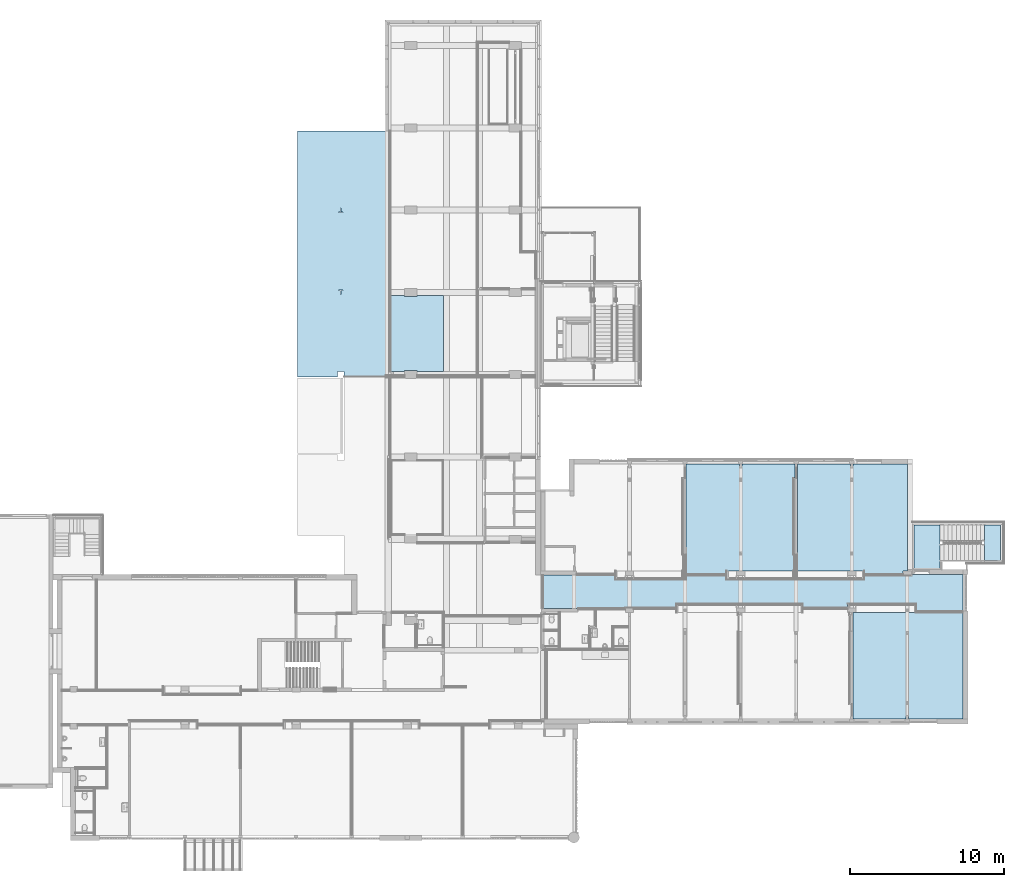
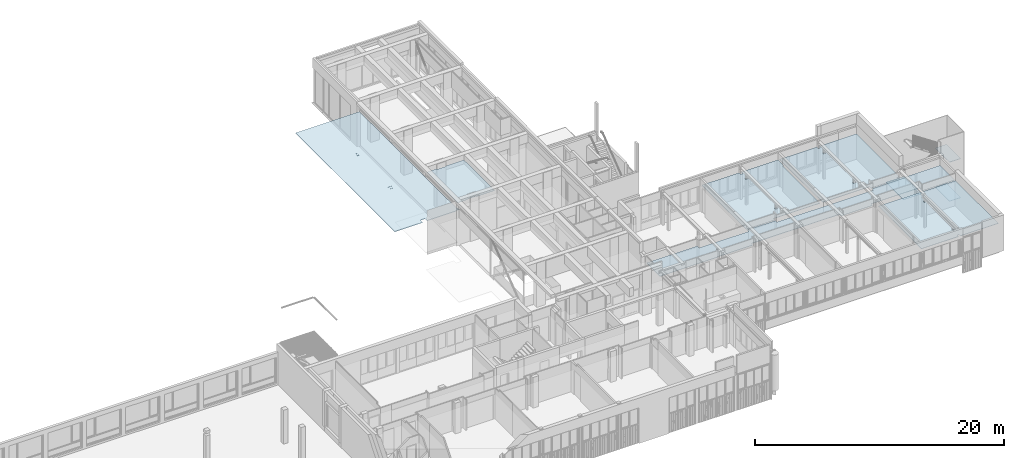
# One storey, part 34 of 117: 9 slabs.
"""IFC2X3 building model written with IfcOpenShell, lengths in millimetres."""

from ifc_helpers import new_model, entity, si_unit, converted_unit, derived_unit, money_unit, direction, frame, origin_with_axes, place, context, subcontext, project, spatial, faceted_brep, material, type_object, element, save


model = new_model("IFC2X3")

# Units and contexts
model_context = context("Model", 3, precision=0.01, world=origin_with_axes(), true_north=direction((0.0, 1.0)))
body_context = subcontext(model_context, "Body", "Model", "MODEL_VIEW")
ifc_project = project(units=[si_unit("LENGTHUNIT", "METRE", prefix="MILLI"), si_unit("AREAUNIT", "SQUARE_METRE"), si_unit("VOLUMEUNIT", "CUBIC_METRE"), converted_unit("PLANEANGLEUNIT", "DEGREE", entity("IfcPlaneAngleMeasure", 0.0174532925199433), si_unit("PLANEANGLEUNIT", "RADIAN"), dimensions=[0, 0, 0, 0, 0, 0, 0]), money_unit("EUR"), converted_unit("TIMEUNIT", "Year", entity("IfcTimeMeasure", 31557600.0), si_unit("TIMEUNIT", "SECOND"), dimensions=[0, 0, 1, 0, 0, 0, 0]), si_unit("MASSUNIT", "GRAM", prefix="KILO"), si_unit("THERMODYNAMICTEMPERATUREUNIT", "DEGREE_CELSIUS"), si_unit("LUMINOUSINTENSITYUNIT", "LUMEN"), si_unit("ENERGYUNIT", "JOULE", prefix="MEGA"), derived_unit("THERMALCONDUCTANCEUNIT", [(si_unit("POWERUNIT", "WATT"), 1), (si_unit("LENGTHUNIT", "METRE"), -1), (si_unit("THERMODYNAMICTEMPERATUREUNIT", "KELVIN"), -1)]), derived_unit("SPECIFICHEATCAPACITYUNIT", [(si_unit("ENERGYUNIT", "JOULE"), 1), (si_unit("MASSUNIT", "GRAM", prefix="KILO"), -1), (si_unit("THERMODYNAMICTEMPERATUREUNIT", "KELVIN"), -1)]), derived_unit("MASSDENSITYUNIT", [(si_unit("MASSUNIT", "GRAM", prefix="KILO"), 1), (si_unit("VOLUMEUNIT", "CUBIC_METRE"), -1)])], contexts=[model_context])

# Site, building, storey
site_placement = place(None, origin_with_axes())
site = spatial("IfcSite", under=ifc_project, at=site_placement, Name="Site", CompositionType="ELEMENT")
building_placement = place(site_placement, origin_with_axes())
building = spatial("IfcBuilding", under=site, at=building_placement, Name="Naam gebouw", CompositionType="ELEMENT")
storey_placement = place(building_placement, frame((0.0, 0.0, 4150.0), z_axis=(0.0, 0.0, 1.0), x_axis=(1.0, 0.0, 0.0)))
storey = spatial("IfcBuildingStorey", under=building, at=storey_placement, Name="1e verdieping N", CompositionType="ELEMENT", Elevation=4150.0)

# Slabs
ifc_material_1 = material(Name="ALG - BINNENAFWERKING")
slab_type_1 = type_object("IfcSlabType", Name="ALG - BINNENAFWERKING 40", PredefinedType="NOTDEFINED")
slab_1_placement = place(storey_placement, frame((50474.99998658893, 10990.91242510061, 2450.0), z_axis=(0.0, 0.0, 1.0), x_axis=(1.0, 0.0, 0.0)))
element("IfcSlab", 1, at=slab_1_placement, inside=storey, type_object=slab_type_1, material=ifc_material_1, Name="_Vloer-x", PredefinedType="NOTDEFINED", context=body_context, shape_type="Brep", body=[
    faceted_brep([(3465.000013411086, 965.0000000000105, 40.00000000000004), (3585.000013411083, 964.9999999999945, 40.00000000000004), (3585.000013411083, 1084.999999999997, 40.00000000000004), (3465.000013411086, 1084.999999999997, 40.00000000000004), (3465.000013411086, 965.0000000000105, 0.0), (3585.000013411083, 964.9999999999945, 0.0), (3585.000013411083, 1084.999999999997, 0.0), (3465.000013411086, 1084.999999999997, 0.0)], [[[0, 1, 2, 3]], [[4, 5, 1, 0]], [[5, 6, 2, 1]], [[3, 2, 6, 7]], [[7, 4, 0, 3]], [[7, 6, 5, 4]]]),
    faceted_brep([(3465.000013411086, 5510.00000000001, 40.00000000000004), (3585.000013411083, 5509.999999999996, 40.00000000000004), (3585.000013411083, 5630.000000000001, 40.00000000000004), (3465.000013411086, 5630.000000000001, 40.00000000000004), (3465.000013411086, 5510.00000000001, 0.0), (3585.000013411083, 5509.999999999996, 0.0), (3585.000013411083, 5630.000000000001, 0.0), (3465.000013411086, 5630.000000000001, 0.0)], [[[0, 1, 2, 3]], [[4, 5, 1, 0]], [[5, 6, 2, 1]], [[3, 2, 6, 7]], [[7, 4, 0, 3]], [[7, 6, 5, 4]]]),
    faceted_brep([(3610.000013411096, 5654.999999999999, 0.0), (3610.000013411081, 5630.000000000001, 0.0), (3610.000013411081, 5630.000000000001, 40.00000000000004), (3610.000013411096, 5654.999999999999, 40.00000000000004), (3450.000013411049, 210.0000000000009, 0.0), (3450.000013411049, 0.0, 0.0), (0.0, 0.0, 0.0), (0.0, 6880.000048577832, 0.0), (7125.000013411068, 6880.000048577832, 0.0), (7125.000013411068, 0.0, 0.0), (3600.000013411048, 0.0, 0.0), (3600.000013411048, 210.0000000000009, 0.0), (3610.000013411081, 940.0000000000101, 0.0), (3610.000013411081, 964.9999999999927, 0.0), (3610.000013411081, 1084.999999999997, 0.0), (3610.000013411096, 1109.999999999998, 0.0), (3465.000013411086, 1109.999999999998, 0.0), (3440.000013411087, 1109.999999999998, 0.0), (3440.000013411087, 940.0000000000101, 0.0), (3465.000013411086, 940.0000000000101, 0.0), (3610.000013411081, 5485.000000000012, 0.0), (3610.000013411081, 5509.999999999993, 0.0), (3465.000013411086, 5654.999999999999, 0.0), (3440.000013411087, 5654.999999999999, 0.0), (3440.000013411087, 5485.000000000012, 0.0), (3465.000013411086, 5485.000000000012, 0.0), (3610.000013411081, 5509.999999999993, 40.00000000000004), (7125.000013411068, 6880.000048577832, 40.00000000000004), (0.0, 6880.000048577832, 40.00000000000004), (0.0, 0.0, 40.00000000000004), (3450.000013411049, 0.0, 40.00000000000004), (3450.000013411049, 210.0000000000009, 40.00000000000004), (3600.000013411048, 210.0000000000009, 40.00000000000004), (3600.000013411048, 0.0, 40.00000000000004), (7125.000013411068, 0.0, 40.00000000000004), (3610.000013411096, 1109.999999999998, 40.00000000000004), (3610.000013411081, 1084.999999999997, 40.00000000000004), (3610.000013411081, 964.9999999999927, 40.00000000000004), (3610.000013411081, 940.0000000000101, 40.00000000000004), (3465.000013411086, 940.0000000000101, 40.00000000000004), (3440.000013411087, 940.0000000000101, 40.00000000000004), (3440.000013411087, 1109.999999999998, 40.00000000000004), (3465.000013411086, 1109.999999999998, 40.00000000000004), (3610.000013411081, 5485.000000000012, 40.00000000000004), (3465.000013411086, 5485.000000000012, 40.00000000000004), (3440.000013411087, 5485.000000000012, 40.00000000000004), (3440.000013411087, 5654.999999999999, 40.00000000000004), (3465.000013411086, 5654.999999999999, 40.00000000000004)], [[[0, 1, 2, 3]], [[4, 5, 6, 7, 8, 9, 10, 11], [12, 13, 14, 15, 16, 17, 18, 19], [20, 21, 1, 0, 22, 23, 24, 25]], [[21, 26, 2, 1]], [[27, 28, 29, 30, 31, 32, 33, 34], [35, 36, 37, 38, 39, 40, 41, 42], [3, 2, 26, 43, 44, 45, 46, 47]], [[0, 3, 47, 22]], [[31, 30, 5, 4]], [[30, 29, 6, 5]], [[29, 28, 7, 6]], [[28, 27, 8, 7]], [[27, 34, 9, 8]], [[34, 33, 10, 9]], [[33, 32, 11, 10]], [[32, 31, 4, 11]], [[38, 37, 13, 12]], [[13, 37, 36, 14]], [[15, 14, 36, 35]], [[15, 35, 42, 16]], [[17, 16, 42, 41]], [[17, 41, 40, 18]], [[40, 39, 19, 18]], [[19, 39, 38, 12]], [[43, 26, 21, 20]], [[23, 22, 47, 46]], [[23, 46, 45, 24]], [[45, 44, 25, 24]], [[25, 44, 43, 20]]]),
])
slab_2_placement = place(storey_placement, frame((14507.00000003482, 33135.91242625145, 3300.000000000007), z_axis=(0.0, 0.0, 1.0), x_axis=(1.0, 0.0, 0.0)))
element("IfcSlab", 2, at=slab_2_placement, inside=storey, type_object=slab_type_1, material=ifc_material_1, Name="_Vloer-x", PredefinedType="NOTDEFINED", context=body_context, shape_type="Brep", body=[
    faceted_brep([(0.0, 15925.00000007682, 0.0), (5928.999999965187, 15925.00000007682, 0.0), (5928.999999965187, 350.0000756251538, 0.0), (6028.999999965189, 350.0000756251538, 0.0), (6029.000047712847, 99.99991990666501, 0.0), (5698.999956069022, 99.99991990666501, 0.0), (5698.999956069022, 30.00009462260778, 0.0), (2998.999982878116, 30.00009462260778, 0.0), (2998.999982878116, 364.9998856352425, 0.0), (2568.99997132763, 364.9998856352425, 0.0), (2568.99997132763, 0.0, 0.0), (0.0, 0.0, 0.0), (2802.999999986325, 5607.38268597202, 0.0), (2816.499999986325, 5611.000000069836, 0.0), (2933.999999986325, 5611.000000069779, 0.0), (2933.999999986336, 5630.000000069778, 0.0), (2633.999999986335, 5630.00000006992, 0.0), (2633.999999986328, 5611.000000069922, 0.0), (2751.499999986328, 5611.000000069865, 0.0), (2764.999999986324, 5607.382685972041, 0.0), (2774.882685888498, 5597.500000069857, 0.0), (2778.499999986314, 5584.000000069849, 0.0), (2778.499999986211, 5376.000000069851, 0.0), (2774.882685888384, 5362.500000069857, 0.0), (2764.9999999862, 5352.617314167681, 0.0), (2751.499999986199, 5349.000000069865, 0.0), (2633.9999999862, 5349.000000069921, 0.0), (2633.999999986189, 5330.000000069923, 0.0), (2933.99999998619, 5330.000000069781, 0.0), (2933.999999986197, 5349.000000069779, 0.0), (2816.499999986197, 5349.000000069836, 0.0), (2802.9999999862, 5352.617314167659, 0.0), (2793.117314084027, 5362.500000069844, 0.0), (2789.49999998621, 5376.000000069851, 0.0), (2789.499999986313, 5584.000000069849, 0.0), (2793.117314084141, 5597.500000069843, 0.0), (2802.999999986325, 10937.38268598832, 0.0), (2816.499999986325, 10941.00000008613, 0.0), (2933.999999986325, 10941.00000008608, 0.0), (2933.999999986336, 10960.00000008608, 0.0), (2633.999999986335, 10960.00000008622, 0.0), (2633.999999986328, 10941.00000008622, 0.0), (2751.499999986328, 10941.00000008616, 0.0), (2764.999999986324, 10937.38268598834, 0.0), (2774.882685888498, 10927.50000008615, 0.0), (2778.499999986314, 10914.00000008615, 0.0), (2778.499999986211, 10706.00000008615, 0.0), (2774.882685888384, 10692.50000008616, 0.0), (2764.9999999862, 10682.61731418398, 0.0), (2751.499999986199, 10679.00000008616, 0.0), (2633.9999999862, 10679.00000008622, 0.0), (2633.999999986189, 10660.00000008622, 0.0), (2933.99999998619, 10660.00000008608, 0.0), (2933.999999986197, 10679.00000008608, 0.0), (2816.499999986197, 10679.00000008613, 0.0), (2802.9999999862, 10682.61731418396, 0.0), (2793.117314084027, 10692.50000008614, 0.0), (2789.49999998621, 10706.00000008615, 0.0), (2789.499999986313, 10914.00000008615, 0.0), (2793.117314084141, 10927.50000008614, 0.0), (0.0, 15925.00000007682, 40.00000000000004), (5928.999999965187, 15925.00000007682, 40.00000000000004), (5928.999999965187, 350.0000756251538, 40.00000000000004), (6028.999999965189, 350.0000756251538, 40.00000000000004), (6029.000047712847, 99.99991990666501, 40.00000000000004), (5698.999956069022, 99.99991990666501, 40.00000000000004), (5698.999956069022, 30.00009462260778, 40.00000000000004), (2998.999982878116, 30.00009462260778, 40.00000000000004), (2998.999982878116, 364.9998856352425, 40.00000000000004), (2568.99997132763, 364.9998856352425, 40.00000000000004), (2568.99997132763, 0.0, 40.00000000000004), (0.0, 0.0, 40.00000000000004), (2802.999999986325, 5607.38268597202, 40.00000000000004), (2816.499999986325, 5611.000000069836, 40.00000000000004), (2933.999999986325, 5611.000000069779, 40.00000000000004), (2933.999999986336, 5630.000000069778, 40.00000000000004), (2633.999999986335, 5630.00000006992, 40.00000000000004), (2633.999999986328, 5611.000000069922, 40.00000000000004), (2751.499999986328, 5611.000000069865, 40.00000000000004), (2764.999999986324, 5607.382685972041, 40.00000000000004), (2774.882685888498, 5597.500000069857, 40.00000000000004), (2778.499999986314, 5584.000000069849, 40.00000000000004), (2778.499999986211, 5376.000000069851, 40.00000000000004), (2774.882685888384, 5362.500000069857, 40.00000000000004), (2764.9999999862, 5352.617314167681, 40.00000000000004), (2751.499999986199, 5349.000000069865, 40.00000000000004), (2633.9999999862, 5349.000000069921, 40.00000000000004), (2633.999999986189, 5330.000000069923, 40.00000000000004), (2933.99999998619, 5330.000000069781, 40.00000000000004), (2933.999999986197, 5349.000000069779, 40.00000000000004), (2816.499999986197, 5349.000000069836, 40.00000000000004), (2802.9999999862, 5352.617314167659, 40.00000000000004), (2793.117314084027, 5362.500000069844, 40.00000000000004), (2789.49999998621, 5376.000000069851, 40.00000000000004), (2789.499999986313, 5584.000000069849, 40.00000000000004), (2793.117314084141, 5597.500000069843, 40.00000000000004), (2802.999999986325, 10937.38268598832, 40.00000000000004), (2816.499999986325, 10941.00000008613, 40.00000000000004), (2933.999999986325, 10941.00000008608, 40.00000000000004), (2933.999999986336, 10960.00000008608, 40.00000000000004), (2633.999999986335, 10960.00000008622, 40.00000000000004), (2633.999999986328, 10941.00000008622, 40.00000000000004), (2751.499999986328, 10941.00000008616, 40.00000000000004), (2764.999999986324, 10937.38268598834, 40.00000000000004), (2774.882685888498, 10927.50000008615, 40.00000000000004), (2778.499999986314, 10914.00000008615, 40.00000000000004), (2778.499999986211, 10706.00000008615, 40.00000000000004), (2774.882685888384, 10692.50000008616, 40.00000000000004), (2764.9999999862, 10682.61731418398, 40.00000000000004), (2751.499999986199, 10679.00000008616, 40.00000000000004), (2633.9999999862, 10679.00000008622, 40.00000000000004), (2633.999999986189, 10660.00000008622, 40.00000000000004), (2933.99999998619, 10660.00000008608, 40.00000000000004), (2933.999999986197, 10679.00000008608, 40.00000000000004), (2816.499999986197, 10679.00000008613, 40.00000000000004), (2802.9999999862, 10682.61731418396, 40.00000000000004), (2793.117314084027, 10692.50000008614, 40.00000000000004), (2789.49999998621, 10706.00000008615, 40.00000000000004), (2789.499999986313, 10914.00000008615, 40.00000000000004), (2793.117314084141, 10927.50000008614, 40.00000000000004)], [[[0, 1, 2, 3, 4, 5, 6, 7, 8, 9, 10, 11], [12, 13, 14, 15, 16, 17, 18, 19, 20, 21, 22, 23, 24, 25, 26, 27, 28, 29, 30, 31, 32, 33, 34, 35], [36, 37, 38, 39, 40, 41, 42, 43, 44, 45, 46, 47, 48, 49, 50, 51, 52, 53, 54, 55, 56, 57, 58, 59]], [[0, 60, 61, 1]], [[62, 2, 1, 61]], [[62, 63, 3, 2]], [[64, 4, 3, 63]], [[4, 64, 65, 5]], [[5, 65, 66, 6]], [[6, 66, 67, 7]], [[7, 67, 68, 8]], [[8, 68, 69, 9]], [[9, 69, 70, 10]], [[10, 70, 71, 11]], [[11, 71, 60, 0]], [[12, 72, 73, 13]], [[13, 73, 74, 14]], [[14, 74, 75, 15]], [[15, 75, 76, 16]], [[16, 76, 77, 17]], [[17, 77, 78, 18]], [[18, 78, 79, 19]], [[19, 79, 80, 20]], [[20, 80, 81, 21]], [[21, 81, 82, 22]], [[22, 82, 83, 23]], [[23, 83, 84, 24]], [[24, 84, 85, 25]], [[25, 85, 86, 26]], [[26, 86, 87, 27]], [[27, 87, 88, 28]], [[28, 88, 89, 29]], [[29, 89, 90, 30]], [[30, 90, 91, 31]], [[31, 91, 92, 32]], [[32, 92, 93, 33]], [[33, 93, 94, 34]], [[34, 94, 95, 35]], [[35, 95, 72, 12]], [[36, 96, 97, 37]], [[37, 97, 98, 38]], [[38, 98, 99, 39]], [[39, 99, 100, 40]], [[40, 100, 101, 41]], [[41, 101, 102, 42]], [[42, 102, 103, 43]], [[43, 103, 104, 44]], [[44, 104, 105, 45]], [[45, 105, 106, 46]], [[46, 106, 107, 47]], [[47, 107, 108, 48]], [[48, 108, 109, 49]], [[49, 109, 110, 50]], [[50, 110, 111, 51]], [[51, 111, 112, 52]], [[52, 112, 113, 53]], [[53, 113, 114, 54]], [[54, 114, 115, 55]], [[55, 115, 116, 56]], [[56, 116, 117, 57]], [[57, 117, 118, 58]], [[58, 118, 119, 59]], [[59, 119, 96, 36]], [[64, 63, 62, 61, 60, 71, 70, 69, 68, 67, 66, 65], [78, 77, 76, 75, 74, 73, 72, 95, 94, 93, 92, 91, 90, 89, 88, 87, 86, 85, 84, 83, 82, 81, 80, 79], [102, 101, 100, 99, 98, 97, 96, 119, 118, 117, 116, 115, 114, 113, 112, 111, 110, 109, 108, 107, 106, 105, 104, 103]]]),
])
slab_3_placement = place(storey_placement, frame((39675.00000000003, 27505.91242510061, 2450.0), z_axis=(0.0, 0.0, 1.0), x_axis=(1.0, 0.0, 0.0)))
element("IfcSlab", 3, at=slab_3_placement, inside=storey, type_object=slab_type_1, material=ifc_material_1, Name="_Vloer-x", PredefinedType="NOTDEFINED", context=body_context, shape_type="Brep", body=[
    faceted_brep([(3464.999999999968, -5859.999999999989, 40.00000000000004), (3584.999999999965, -5860.000000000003, 40.00000000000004), (3584.999999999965, -5739.999999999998, 40.00000000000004), (3464.999999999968, -5739.999999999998, 40.00000000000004), (3464.999999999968, -5859.999999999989, 0.0), (3584.999999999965, -5860.000000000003, 0.0), (3584.999999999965, -5739.999999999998, 0.0), (3464.999999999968, -5739.999999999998, 0.0)], [[[0, 1, 2, 3]], [[4, 5, 1, 0]], [[5, 6, 2, 1]], [[3, 2, 6, 7]], [[7, 4, 0, 3]], [[7, 6, 5, 4]]]),
    faceted_brep([(3464.999999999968, -1084.999999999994, 40.00000000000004), (3584.999999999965, -1085.000000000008, 40.00000000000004), (3584.999999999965, -965.0000000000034, 40.00000000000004), (3464.999999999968, -965.0000000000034, 40.00000000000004), (3464.999999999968, -1084.999999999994, 0.0), (3584.999999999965, -1085.000000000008, 0.0), (3584.999999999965, -965.0000000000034, 0.0), (3464.999999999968, -965.0000000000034, 0.0)], [[[0, 1, 2, 3]], [[4, 5, 1, 0]], [[5, 6, 2, 1]], [[3, 2, 6, 7]], [[7, 4, 0, 3]], [[7, 6, 5, 4]]]),
    faceted_brep([(3609.999999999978, -940.0000000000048, 0.0), (3609.999999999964, -965.0000000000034, 0.0), (3609.999999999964, -965.0000000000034, 40.00000000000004), (3609.999999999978, -940.0000000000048, 40.00000000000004), (2609.999950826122, -7149.999999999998, 0.0), (0.0, -7149.999999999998, 0.0), (0.0, 0.0, 0.0), (3449.999975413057, 0.0, 0.0), (3449.999975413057, -255.0000245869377, 0.0), (3599.999983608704, -255.0000245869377, 0.0), (3599.999983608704, 0.0, 0.0), (7049.999959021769, 0.0, 0.0), (7049.999959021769, -939.9999590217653, 0.0), (6950.000024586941, -939.9999590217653, 0.0), (6950.000024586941, -6925.00004097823, 0.0), (2609.999950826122, -6925.00004097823, 0.0), (3609.999999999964, -5884.999999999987, 0.0), (3609.999999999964, -5860.000000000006, 0.0), (3609.999999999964, -5739.999999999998, 0.0), (3609.999999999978, -5715.0, 0.0), (3464.999999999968, -5715.0, 0.0), (3439.999999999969, -5715.0, 0.0), (3439.999999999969, -5884.999999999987, 0.0), (3464.999999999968, -5884.999999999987, 0.0), (3609.999999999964, -1109.999999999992, 0.0), (3609.999999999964, -1085.000000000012, 0.0), (3464.999999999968, -940.0000000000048, 0.0), (3439.999999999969, -940.0000000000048, 0.0), (3439.999999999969, -1109.999999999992, 0.0), (3464.999999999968, -1109.999999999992, 0.0), (3609.999999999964, -1085.000000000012, 40.00000000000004), (3449.999975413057, -255.0000245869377, 40.00000000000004), (3449.999975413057, 0.0, 40.00000000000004), (0.0, 0.0, 40.00000000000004), (0.0, -7149.999999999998, 40.00000000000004), (2609.999950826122, -7149.999999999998, 40.00000000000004), (2609.999950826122, -6925.00004097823, 40.00000000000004), (6950.000024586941, -6925.00004097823, 40.00000000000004), (6950.000024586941, -939.9999590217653, 40.00000000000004), (7049.999959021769, -939.9999590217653, 40.00000000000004), (7049.999959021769, 0.0, 40.00000000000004), (3599.999983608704, 0.0, 40.00000000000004), (3599.999983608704, -255.0000245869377, 40.00000000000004), (3609.999999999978, -5715.0, 40.00000000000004), (3609.999999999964, -5739.999999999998, 40.00000000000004), (3609.999999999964, -5860.000000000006, 40.00000000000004), (3609.999999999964, -5884.999999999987, 40.00000000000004), (3464.999999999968, -5884.999999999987, 40.00000000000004), (3439.999999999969, -5884.999999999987, 40.00000000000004), (3439.999999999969, -5715.0, 40.00000000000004), (3464.999999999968, -5715.0, 40.00000000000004), (3609.999999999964, -1109.999999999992, 40.00000000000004), (3464.999999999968, -1109.999999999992, 40.00000000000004), (3439.999999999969, -1109.999999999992, 40.00000000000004), (3439.999999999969, -940.0000000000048, 40.00000000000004), (3464.999999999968, -940.0000000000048, 40.00000000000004)], [[[0, 1, 2, 3]], [[4, 5, 6, 7, 8, 9, 10, 11, 12, 13, 14, 15], [16, 17, 18, 19, 20, 21, 22, 23], [24, 25, 1, 0, 26, 27, 28, 29]], [[25, 30, 2, 1]], [[31, 32, 33, 34, 35, 36, 37, 38, 39, 40, 41, 42], [43, 44, 45, 46, 47, 48, 49, 50], [3, 2, 30, 51, 52, 53, 54, 55]], [[0, 3, 55, 26]], [[35, 34, 5, 4]], [[34, 33, 6, 5]], [[33, 32, 7, 6]], [[32, 31, 8, 7]], [[31, 42, 9, 8]], [[42, 41, 10, 9]], [[41, 40, 11, 10]], [[40, 39, 12, 11]], [[39, 38, 13, 12]], [[38, 37, 14, 13]], [[37, 36, 15, 14]], [[36, 35, 4, 15]], [[46, 45, 17, 16]], [[17, 45, 44, 18]], [[19, 18, 44, 43]], [[19, 43, 50, 20]], [[21, 20, 50, 49]], [[21, 49, 48, 22]], [[48, 47, 23, 22]], [[23, 47, 46, 16]], [[51, 30, 25, 24]], [[27, 26, 55, 54]], [[27, 54, 53, 28]], [[53, 52, 29, 28]], [[29, 52, 51, 24]]]),
])
slab_4_placement = place(storey_placement, frame((46875.00000000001, 27505.91242510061, 2450.0), z_axis=(0.0, 0.0, 1.0), x_axis=(1.0, 0.0, 0.0)))
element("IfcSlab", 4, at=slab_4_placement, inside=storey, type_object=slab_type_1, material=ifc_material_1, Name="_Vloer-x", PredefinedType="NOTDEFINED", context=body_context, shape_type="Brep", body=[
    faceted_brep([(3464.999999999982, -5859.999999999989, 40.00000000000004), (3584.99999999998, -5860.000000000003, 40.00000000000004), (3584.99999999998, -5739.999999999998, 40.00000000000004), (3464.999999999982, -5739.999999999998, 40.00000000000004), (3464.999999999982, -5859.999999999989, 0.0), (3584.99999999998, -5860.000000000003, 0.0), (3584.99999999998, -5739.999999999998, 0.0), (3464.999999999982, -5739.999999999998, 0.0)], [[[0, 1, 2, 3]], [[4, 5, 1, 0]], [[5, 6, 2, 1]], [[3, 2, 6, 7]], [[7, 4, 0, 3]], [[7, 6, 5, 4]]]),
    faceted_brep([(3464.999999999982, -1084.999999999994, 40.00000000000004), (3584.99999999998, -1085.000000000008, 40.00000000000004), (3584.99999999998, -965.0000000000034, 40.00000000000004), (3464.999999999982, -965.0000000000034, 40.00000000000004), (3464.999999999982, -1084.999999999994, 0.0), (3584.99999999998, -1085.000000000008, 0.0), (3584.99999999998, -965.0000000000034, 0.0), (3464.999999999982, -965.0000000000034, 0.0)], [[[0, 1, 2, 3]], [[4, 5, 1, 0]], [[5, 6, 2, 1]], [[3, 2, 6, 7]], [[7, 4, 0, 3]], [[7, 6, 5, 4]]]),
    faceted_brep([(3609.999999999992, -940.0000000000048, 0.0), (3609.999999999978, -965.0000000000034, 0.0), (3609.999999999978, -965.0000000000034, 40.00000000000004), (3609.999999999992, -940.0000000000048, 40.00000000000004), (4339.999999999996, -6925.000000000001, 0.0), (0.0, -6925.000000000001, 0.0), (0.0, 0.0, 0.0), (3449.999999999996, 0.0, 0.0), (3449.999999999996, -254.999999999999, 0.0), (3599.999999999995, -254.999999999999, 0.0), (3599.999999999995, 0.0, 0.0), (7124.999999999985, 0.0, 0.0), (7124.999999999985, -6925.000000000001, 0.0), (6854.999999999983, -6925.000000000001, 0.0), (6854.999999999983, -7149.999999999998, 0.0), (4339.999999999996, -7149.999999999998, 0.0), (3609.999999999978, -5884.999999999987, 0.0), (3609.999999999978, -5860.000000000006, 0.0), (3609.999999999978, -5739.999999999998, 0.0), (3609.999999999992, -5715.0, 0.0), (3464.999999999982, -5715.0, 0.0), (3439.999999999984, -5715.0, 0.0), (3439.999999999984, -5884.999999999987, 0.0), (3464.999999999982, -5884.999999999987, 0.0), (3609.999999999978, -1109.999999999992, 0.0), (3609.999999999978, -1085.000000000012, 0.0), (3464.999999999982, -940.0000000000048, 0.0), (3439.999999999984, -940.0000000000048, 0.0), (3439.999999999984, -1109.999999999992, 0.0), (3464.999999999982, -1109.999999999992, 0.0), (3609.999999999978, -1085.000000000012, 40.00000000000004), (3449.999999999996, -254.999999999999, 40.00000000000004), (3449.999999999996, 0.0, 40.00000000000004), (0.0, 0.0, 40.00000000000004), (0.0, -6925.000000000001, 40.00000000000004), (4339.999999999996, -6925.000000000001, 40.00000000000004), (4339.999999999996, -7149.999999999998, 40.00000000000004), (6854.999999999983, -7149.999999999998, 40.00000000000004), (6854.999999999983, -6925.000000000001, 40.00000000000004), (7124.999999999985, -6925.000000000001, 40.00000000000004), (7124.999999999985, 0.0, 40.00000000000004), (3599.999999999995, 0.0, 40.00000000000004), (3599.999999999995, -254.999999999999, 40.00000000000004), (3609.999999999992, -5715.0, 40.00000000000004), (3609.999999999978, -5739.999999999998, 40.00000000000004), (3609.999999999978, -5860.000000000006, 40.00000000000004), (3609.999999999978, -5884.999999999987, 40.00000000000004), (3464.999999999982, -5884.999999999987, 40.00000000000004), (3439.999999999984, -5884.999999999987, 40.00000000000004), (3439.999999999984, -5715.0, 40.00000000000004), (3464.999999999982, -5715.0, 40.00000000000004), (3609.999999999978, -1109.999999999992, 40.00000000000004), (3464.999999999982, -1109.999999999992, 40.00000000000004), (3439.999999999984, -1109.999999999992, 40.00000000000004), (3439.999999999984, -940.0000000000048, 40.00000000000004), (3464.999999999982, -940.0000000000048, 40.00000000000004)], [[[0, 1, 2, 3]], [[4, 5, 6, 7, 8, 9, 10, 11, 12, 13, 14, 15], [16, 17, 18, 19, 20, 21, 22, 23], [24, 25, 1, 0, 26, 27, 28, 29]], [[25, 30, 2, 1]], [[31, 32, 33, 34, 35, 36, 37, 38, 39, 40, 41, 42], [43, 44, 45, 46, 47, 48, 49, 50], [3, 2, 30, 51, 52, 53, 54, 55]], [[0, 3, 55, 26]], [[35, 34, 5, 4]], [[34, 33, 6, 5]], [[33, 32, 7, 6]], [[32, 31, 8, 7]], [[31, 42, 9, 8]], [[42, 41, 10, 9]], [[41, 40, 11, 10]], [[40, 39, 12, 11]], [[39, 38, 13, 12]], [[38, 37, 14, 13]], [[37, 36, 15, 14]], [[36, 35, 4, 15]], [[46, 45, 17, 16]], [[17, 45, 44, 18]], [[19, 18, 44, 43]], [[19, 43, 50, 20]], [[21, 20, 50, 49]], [[21, 49, 48, 22]], [[48, 47, 23, 22]], [[23, 47, 46, 16]], [[51, 30, 25, 24]], [[27, 26, 55, 54]], [[27, 54, 53, 28]], [[53, 52, 29, 28]], [[29, 52, 51, 24]]]),
])
slab_5_placement = place(storey_placement, frame((30406.99999999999, 18150.91242510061, 2450.0), z_axis=(0.0, 0.0, 1.0), x_axis=(1.0, 0.0, 0.0)))
element("IfcSlab", 5, at=slab_5_placement, inside=storey, type_object=slab_type_1, material=ifc_material_1, Name="_Vloer-x", PredefinedType="NOTDEFINED", context=body_context, shape_type="Brep", body=[
    faceted_brep([(0.0, 0.0, 40.00000000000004), (0.0, 0.0, 0.0), (5310.500000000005, 0.0, 0.0), (5310.500000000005, 0.0, 40.00000000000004), (0.0, 2149.999999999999, 40.00000000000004), (0.0, 2149.999999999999, 0.0), (4678.000000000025, 2149.999999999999, 0.0), (4678.000000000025, 1855.0, 0.0), (9268.00000000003, 1855.0, 0.0), (9268.00000000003, 2105.0, 0.0), (11878.00000000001, 2105.0, 0.0), (11878.00000000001, 1855.0, 0.0), (20808.00000000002, 1855.0, 0.0), (20808.00000000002, 2105.0, 0.0), (23877.50000000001, 2105.0, 0.0), (23877.50000000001, 2174.999999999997, 0.0), (27193.0, 2174.999999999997, 0.0), (27193.0, -180.0000000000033, 0.0), (24162.99999999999, -180.0000000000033, 0.0), (24162.99999999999, 294.9999999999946, 0.0), (19723.0, 294.9999999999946, 0.0), (19723.0, 44.99999999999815, 0.0), (16813.00000000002, 44.99999999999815, 0.0), (16813.00000000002, 294.9999999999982, 0.0), (8622.999999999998, 294.9999999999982, 0.0), (8622.999999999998, 44.99999999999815, 0.0), (5310.500000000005, 44.99999999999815, 0.0), (5310.500000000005, 44.99999999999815, 40.00000000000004), (8622.999999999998, 44.99999999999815, 40.00000000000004), (8622.999999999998, 294.9999999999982, 40.00000000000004), (16813.00000000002, 294.9999999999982, 40.00000000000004), (16813.00000000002, 44.99999999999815, 40.00000000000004), (19723.0, 44.99999999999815, 40.00000000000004), (19723.0, 294.9999999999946, 40.00000000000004), (24162.99999999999, 294.9999999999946, 40.00000000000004), (24162.99999999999, -180.0000000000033, 40.00000000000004), (27193.0, -180.0000000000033, 40.00000000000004), (27193.0, 2174.999999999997, 40.00000000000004), (23877.50000000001, 2174.999999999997, 40.00000000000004), (23877.50000000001, 2105.0, 40.00000000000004), (20808.00000000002, 2105.0, 40.00000000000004), (20808.00000000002, 1855.0, 40.00000000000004), (11878.00000000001, 1855.0, 40.00000000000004), (11878.00000000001, 2105.0, 40.00000000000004), (9268.00000000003, 2105.0, 40.00000000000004), (9268.00000000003, 1855.0, 40.00000000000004), (4678.000000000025, 1855.0, 40.00000000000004), (4678.000000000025, 2149.999999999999, 40.00000000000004)], [[[0, 1, 2, 3]], [[4, 5, 1, 0]], [[2, 1, 5, 6, 7, 8, 9, 10, 11, 12, 13, 14, 15, 16, 17, 18, 19, 20, 21, 22, 23, 24, 25, 26]], [[3, 2, 26, 27]], [[4, 0, 3, 27, 28, 29, 30, 31, 32, 33, 34, 35, 36, 37, 38, 39, 40, 41, 42, 43, 44, 45, 46, 47]], [[47, 6, 5, 4]], [[46, 7, 6, 47]], [[45, 8, 7, 46]], [[44, 9, 8, 45]], [[43, 10, 9, 44]], [[42, 11, 10, 43]], [[41, 12, 11, 42]], [[40, 13, 12, 41]], [[39, 14, 13, 40]], [[38, 15, 14, 39]], [[37, 16, 15, 38]], [[36, 17, 16, 37]], [[35, 18, 17, 36]], [[34, 19, 18, 35]], [[33, 20, 19, 34]], [[32, 21, 20, 33]], [[31, 22, 21, 32]], [[30, 23, 22, 31]], [[29, 24, 23, 30]], [[28, 25, 24, 29]], [[27, 26, 25, 28]]]),
])
ifc_material_2 = material(Name="Metaal - Staal C")
slab_type_2 = type_object("IfcSlabType", Name="Metaal - Staal C 40", PredefinedType="NOTDEFINED")
slab_6_placement = place(storey_placement, frame((59010.0, 21260.9124251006, 1750.0), z_axis=(0.0, 0.0, 1.0), x_axis=(1.0, 0.0, 0.0)))
element("IfcSlab", 6, at=slab_6_placement, inside=storey, type_object=slab_type_2, material=ifc_material_2, Name="_Vloer-x", PredefinedType="NOTDEFINED", context=body_context, shape_type="Brep", body=[
    faceted_brep([(0.0, 0.0, 0.0), (0.0, 0.0, -40.00000000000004), (1034.999999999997, 0.0, -40.00000000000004), (1034.999999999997, 0.0, 0.0), (0.0, 2290.000000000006, 0.0), (0.0, 2290.000000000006, -40.00000000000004), (1034.999999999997, 2290.000000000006, -40.00000000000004), (1034.999999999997, 2290.000000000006, 0.0)], [[[0, 1, 2, 3]], [[4, 5, 1, 0]], [[2, 1, 5, 6]], [[3, 2, 6, 7]], [[4, 0, 3, 7]], [[7, 6, 5, 4]]]),
])
slab_7_placement = place(storey_placement, frame((56124.65277777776, 23550.9124251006, 0.0), z_axis=(0.0, 0.0, 1.0), x_axis=(1.0, 0.0, 0.0)))
element("IfcSlab", 7, at=slab_7_placement, inside=storey, type_object=slab_type_2, material=ifc_material_2, Name="_Vloer-x", PredefinedType="NOTDEFINED", context=body_context, shape_type="Brep", body=[
    faceted_brep([(0.0, 0.0, 0.0), (0.0, 0.0, -40.00000000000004), (-1694.652777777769, 0.0, -40.00000000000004), (-1694.652777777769, 0.0, 0.0), (0.0, -2819.999999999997, 0.0), (0.0, -2819.999999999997, -40.00000000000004), (-1694.652777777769, -2819.999999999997, -40.00000000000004), (-1694.652777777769, -2819.999999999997, 0.0)], [[[0, 1, 2, 3]], [[4, 5, 1, 0]], [[2, 1, 5, 6]], [[3, 2, 6, 7]], [[4, 0, 3, 7]], [[7, 6, 5, 4]]]),
])
slab_8_placement = place(storey_placement, frame((59010.0, 21260.9124251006, -2075.0), z_axis=(0.0, 0.0, 1.0), x_axis=(1.0, 0.0, 0.0)))
element("IfcSlab", 8, at=slab_8_placement, inside=storey, type_object=slab_type_2, material=ifc_material_2, Name="_Vloer-x", PredefinedType="NOTDEFINED", context=body_context, shape_type="Brep", body=[
    faceted_brep([(0.0, 0.0, 0.0), (0.0, 0.0, -40.00000000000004), (1034.999999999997, 0.0, -40.00000000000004), (1034.999999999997, 0.0, 0.0), (0.0, 2290.00000000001, 0.0), (0.0, 2290.00000000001, -40.00000000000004), (1034.999999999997, 2290.00000000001, -40.00000000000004), (1034.999999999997, 2290.00000000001, 0.0)], [[[0, 1, 2, 3]], [[4, 5, 1, 0]], [[2, 1, 5, 6]], [[3, 2, 6, 7]], [[4, 0, 3, 7]], [[7, 6, 5, 4]]]),
])
slab_type_3 = type_object("IfcSlabType", Name="ALG - BINNENAFWERKING 25", PredefinedType="NOTDEFINED")
slab_9_placement = place(storey_placement, frame((20536.0, 33485.91242510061, 3815.0), z_axis=(0.0, 0.0, 1.0), x_axis=(1.0, 0.0, 0.0)))
element("IfcSlab", 9, at=slab_9_placement, inside=storey, type_object=slab_type_3, material=ifc_material_1, Name="_Vloer-x", PredefinedType="NOTDEFINED", context=body_context, shape_type="Brep", body=[
    faceted_brep([(0.0, 0.0, 25.00000000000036), (0.0, 0.0, 0.0), (890.0000000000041, 0.0, 0.0), (890.0000000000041, 0.0, 25.00000000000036), (0.0, 4929.999999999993, 25.00000000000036), (0.0, 4929.999999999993, 0.0), (890.0000000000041, 4929.999999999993, 0.0), (890.0000000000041, 4867.499999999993, 0.0), (1710.000000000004, 4867.499999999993, 0.0), (1710.000000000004, 4929.999999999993, 0.0), (3413.999999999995, 4929.999999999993, 0.0), (3413.999999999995, 0.0, 0.0), (1710.000000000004, 0.0, 0.0), (1710.000000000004, 62.5, 0.0), (890.0000000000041, 62.5, 0.0), (890.0000000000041, 62.5, 25.00000000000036), (1710.000000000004, 62.5, 25.00000000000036), (1710.000000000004, 0.0, 25.00000000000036), (3413.999999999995, 0.0, 25.00000000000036), (3413.999999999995, 4929.999999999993, 25.00000000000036), (1710.000000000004, 4929.999999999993, 25.00000000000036), (1710.000000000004, 4867.499999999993, 25.00000000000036), (890.0000000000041, 4867.499999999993, 25.00000000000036), (890.0000000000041, 4929.999999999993, 25.00000000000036)], [[[0, 1, 2, 3]], [[4, 5, 1, 0]], [[2, 1, 5, 6, 7, 8, 9, 10, 11, 12, 13, 14]], [[3, 2, 14, 15]], [[4, 0, 3, 15, 16, 17, 18, 19, 20, 21, 22, 23]], [[23, 6, 5, 4]], [[22, 7, 6, 23]], [[21, 8, 7, 22]], [[20, 9, 8, 21]], [[19, 10, 9, 20]], [[18, 11, 10, 19]], [[17, 12, 11, 18]], [[16, 13, 12, 17]], [[15, 14, 13, 16]]]),
])

save(model, "model.ifc")
